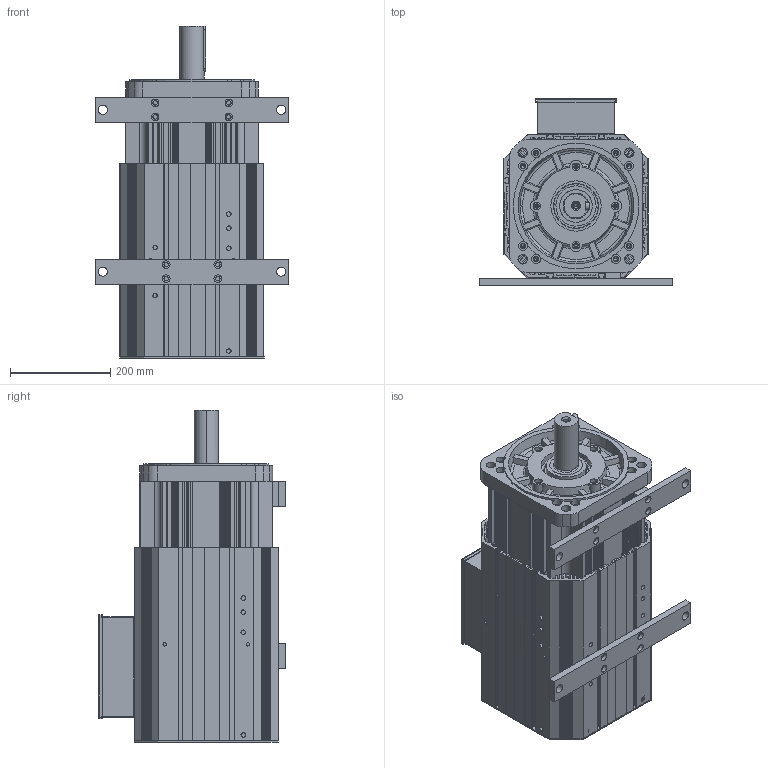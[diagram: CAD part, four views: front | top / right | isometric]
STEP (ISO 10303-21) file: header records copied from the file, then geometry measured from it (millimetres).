
FILE_DESCRIPTION (( 'STEP AP203' ), '1' );
FILE_NAME ('ZE2504.STEP', '2024-10-24T10:00:13', ( 'MicroSoft' ), ( 'MicroSoft' ), 'SwSTEP 2.0', 'SolidWorks 2020', '' );
FILE_SCHEMA (( 'CONFIG_CONTROL_DESIGN' ));
Length unit declared in the file: millimetre
Products named in the file (23): Z25-01-27（25端子固定片）; Z25-01-28(晤鎢ん綴欶褲); Z25-01-02(25前法兰); Z25-01-13（25风扇固定片）; Z25-01-18（前轴承压盖）; Z25-01-12(25炵蹈絳瑞啣C)_5-6耀; Z25-01-03(25綴楊擘); Z25-01-10(25炵蹈絳瑞啣A)_5-6耀; ZE2504; Z25-01-04(25全系电机轴-旋变)_2505; Z25-01-25（25接线盒密封垫）; Z25-01-01(25儂褲)_2505; 25諉盄碟郪璃; Z25-01-07(25萇儂綴菁褐盓殤) ; Z25-01-11(25炵蹈絳瑞啣B)_5-6耀; Z25-01-24（25接线盒盖板）; GB／T276-94深沟球轴承6313-2Z; Z25-01-09(25电机前轴承挡圈); Z25-01-23（25接线盒焊接）; Z25-01-26（25导轨条）; Z25-01-06(25萇儂ヶ菁褐盓殤); 25す瑩ㄗ14-9-91ㄘ; Z25-01-08(25电机底脚支架垫板)
Assembly tree (23 placements, depth 3):
  ZE2504
    Z25-01-02(25前法兰)
    Z25-01-01(25儂褲)_2505
    Z25-01-03(25綴楊擘)
    GB／T276-94深沟球轴承6313-2Z
    Z25-01-06(25萇儂ヶ菁褐盓殤)
    Z25-01-07(25萇儂綴菁褐盓殤) 
    Z25-01-08(25电机底脚支架垫板)
    Z25-01-09(25电机前轴承挡圈)
    25す瑩ㄗ14-9-91ㄘ
    Z25-01-13（25风扇固定片）
    Z25-01-18（前轴承压盖）
    Z25-01-28(晤鎢ん綴欶褲)
    25諉盄碟郪璃
      Z25-01-23（25接线盒焊接）
      Z25-01-26（25导轨条）
      Z25-01-27（25端子固定片）
      Z25-01-24（25接线盒盖板）
      Z25-01-25（25接线盒密封垫）
    Z25-01-04(25全系电机轴-旋变)_2505
    Z25-01-10(25炵蹈絳瑞啣A)_5-6耀
    Z25-01-11(25炵蹈絳瑞啣B)_5-6耀
    Z25-01-12(25炵蹈絳瑞啣C)_5-6耀  x2
Bounding box: 384 x 372.9 x 661 mm (x, y, z)
Volume: 12649216.7 mm3; surface area: 3667640.4 mm2
Topology: 23 solids, 23 shells, 3214 faces, 8975 edges, 5778 vertices
Faces by surface type: cylinder 1462, plane 1238, cone 191, sphere 118, torus 107, bspline 98
Entity records: 105470 total; most frequent: CARTESIAN_POINT 27667, DIRECTION 16075, ORIENTED_EDGE 15924, EDGE_CURVE 7962, AXIS2_PLACEMENT_3D 5954, VERTEX_POINT 5146, VECTOR 4167, LINE 4167
